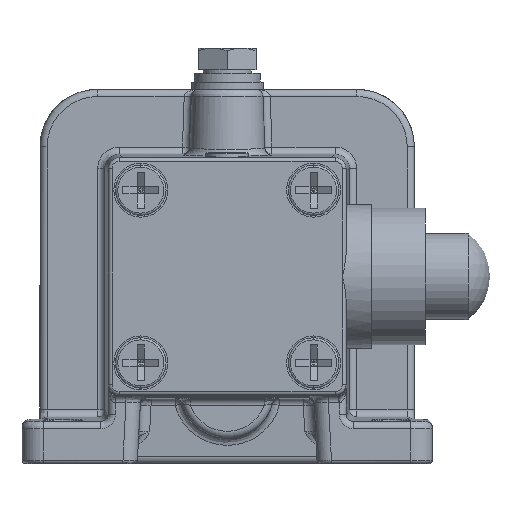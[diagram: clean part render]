
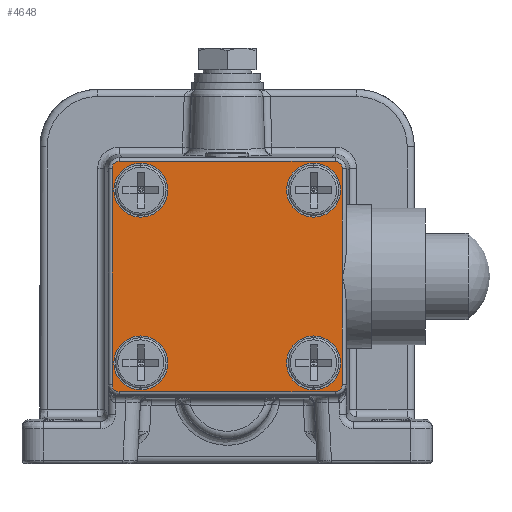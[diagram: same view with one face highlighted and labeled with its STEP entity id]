
A CAD part, left-side view. The second image highlights one B-rep face of the part: STEP entity #4648.
In plain terms, the highlighted planar face has unit normal (-1, 0, 0).
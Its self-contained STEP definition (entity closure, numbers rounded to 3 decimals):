
#3393=CARTESIAN_POINT('',(-76.253,-16.,0.));
#3394=VERTEX_POINT('',#3393);
#3999=CARTESIAN_POINT('',(-76.253,16.,15.));
#4000=VERTEX_POINT('',#3999);
#4009=CARTESIAN_POINT('',(-76.253,16.,-15.));
#4010=VERTEX_POINT('',#4009);
#4018=CARTESIAN_POINT('',(-76.253,16.,15.));
#4019=DIRECTION('',(0.0,0.0,-1.0));
#4020=VECTOR('',#4019,30.0);
#4021=LINE('',#4018,#4020);
#4022=EDGE_CURVE('',#4000,#4010,#4021,.T.);
#4032=CARTESIAN_POINT('',(-76.253,15.,16.));
#4033=VERTEX_POINT('',#4032);
#4043=CARTESIAN_POINT('',(-76.253,15.,15.));
#4044=DIRECTION('',(-1.0,0.0,0.0));
#4045=DIRECTION('',(0.0,0.0,1.0));
#4046=AXIS2_PLACEMENT_3D('',#4043,#4044,#4045);
#4047=CIRCLE('',#4046,1.);
#4048=EDGE_CURVE('',#4033,#4000,#4047,.T.);
#4058=CARTESIAN_POINT('',(-76.253,-15.,16.));
#4059=VERTEX_POINT('',#4058);
#4069=CARTESIAN_POINT('',(-76.253,-15.,16.));
#4070=DIRECTION('',(0.0,1.0,0.0));
#4071=VECTOR('',#4070,30.0);
#4072=LINE('',#4069,#4071);
#4073=EDGE_CURVE('',#4059,#4033,#4072,.T.);
#4083=CARTESIAN_POINT('',(-76.253,-16.,15.));
#4084=VERTEX_POINT('',#4083);
#4102=CARTESIAN_POINT('',(-76.253,-15.,15.));
#4103=DIRECTION('',(-1.0,0.0,0.0));
#4104=DIRECTION('',(0.0,-1.0,0.0));
#4105=AXIS2_PLACEMENT_3D('',#4102,#4103,#4104);
#4106=CIRCLE('',#4105,1.);
#4107=EDGE_CURVE('',#4084,#4059,#4106,.T.);
#4164=CARTESIAN_POINT('',(-76.253,-16.,-15.));
#4165=VERTEX_POINT('',#4164);
#4175=CARTESIAN_POINT('',(-76.253,-16.,-15.));
#4176=DIRECTION('',(0.0,0.0,1.0));
#4177=VECTOR('',#4176,15.0);
#4178=LINE('',#4175,#4177);
#4179=EDGE_CURVE('',#4165,#3394,#4178,.T.);
#4190=CARTESIAN_POINT('',(-76.253,-16.,0.));
#4191=DIRECTION('',(0.0,0.0,1.0));
#4192=VECTOR('',#4191,15.0);
#4193=LINE('',#4190,#4192);
#4194=EDGE_CURVE('',#3394,#4084,#4193,.T.);
#4206=CARTESIAN_POINT('',(-76.253,-15.,-16.));
#4207=VERTEX_POINT('',#4206);
#4217=CARTESIAN_POINT('',(-76.253,-15.,-15.));
#4218=DIRECTION('',(-1.0,0.0,0.0));
#4219=DIRECTION('',(0.0,0.0,-1.0));
#4220=AXIS2_PLACEMENT_3D('',#4217,#4218,#4219);
#4221=CIRCLE('',#4220,1.);
#4222=EDGE_CURVE('',#4207,#4165,#4221,.T.);
#4232=CARTESIAN_POINT('',(-76.253,15.,-16.));
#4233=VERTEX_POINT('',#4232);
#4243=CARTESIAN_POINT('',(-76.253,15.,-16.));
#4244=DIRECTION('',(0.0,-1.0,0.0));
#4245=VECTOR('',#4244,30.0);
#4246=LINE('',#4243,#4245);
#4247=EDGE_CURVE('',#4233,#4207,#4246,.T.);
#4266=CARTESIAN_POINT('',(-76.253,15.,-15.));
#4267=DIRECTION('',(-1.0,0.0,0.0));
#4268=DIRECTION('',(0.0,1.0,0.0));
#4269=AXIS2_PLACEMENT_3D('',#4266,#4267,#4268);
#4270=CIRCLE('',#4269,1.);
#4271=EDGE_CURVE('',#4010,#4233,#4270,.T.);
#4301=CARTESIAN_POINT('',(-76.253,-12.,-15.75));
#4302=VERTEX_POINT('',#4301);
#4320=CARTESIAN_POINT('',(-76.253,-12.,-8.25));
#4321=VERTEX_POINT('',#4320);
#4328=CARTESIAN_POINT('',(-76.253,-12.,-12.));
#4329=DIRECTION('',(1.0,0.0,0.0));
#4330=DIRECTION('',(0.0,0.0,-1.0));
#4331=AXIS2_PLACEMENT_3D('',#4328,#4329,#4330);
#4332=CIRCLE('',#4331,3.75);
#4333=EDGE_CURVE('',#4302,#4321,#4332,.T.);
#4352=CARTESIAN_POINT('',(-76.253,-12.,-12.));
#4353=DIRECTION('',(1.0,0.0,0.0));
#4354=DIRECTION('',(0.0,0.0,1.0));
#4355=AXIS2_PLACEMENT_3D('',#4352,#4353,#4354);
#4356=CIRCLE('',#4355,3.75);
#4357=EDGE_CURVE('',#4321,#4302,#4356,.T.);
#4381=CARTESIAN_POINT('',(-76.253,-12.,8.25));
#4382=VERTEX_POINT('',#4381);
#4400=CARTESIAN_POINT('',(-76.253,-12.,15.75));
#4401=VERTEX_POINT('',#4400);
#4408=CARTESIAN_POINT('',(-76.253,-12.,12.));
#4409=DIRECTION('',(1.0,0.0,0.0));
#4410=DIRECTION('',(0.0,0.0,-1.0));
#4411=AXIS2_PLACEMENT_3D('',#4408,#4409,#4410);
#4412=CIRCLE('',#4411,3.75);
#4413=EDGE_CURVE('',#4382,#4401,#4412,.T.);
#4432=CARTESIAN_POINT('',(-76.253,-12.,12.));
#4433=DIRECTION('',(1.0,0.0,0.0));
#4434=DIRECTION('',(0.0,0.0,1.0));
#4435=AXIS2_PLACEMENT_3D('',#4432,#4433,#4434);
#4436=CIRCLE('',#4435,3.75);
#4437=EDGE_CURVE('',#4401,#4382,#4436,.T.);
#4463=CARTESIAN_POINT('',(-76.253,15.75,-12.));
#4464=VERTEX_POINT('',#4463);
#4480=CARTESIAN_POINT('',(-76.253,8.25,-12.));
#4481=VERTEX_POINT('',#4480);
#4488=CARTESIAN_POINT('',(-76.253,12.,-12.));
#4489=DIRECTION('',(-1.0,0.0,0.0));
#4490=DIRECTION('',(0.0,-1.0,0.0));
#4491=AXIS2_PLACEMENT_3D('',#4488,#4489,#4490);
#4492=CIRCLE('',#4491,3.75);
#4493=EDGE_CURVE('',#4481,#4464,#4492,.T.);
#4512=CARTESIAN_POINT('',(-76.253,12.,-12.));
#4513=DIRECTION('',(-1.0,0.0,0.0));
#4514=DIRECTION('',(0.0,1.0,0.0));
#4515=AXIS2_PLACEMENT_3D('',#4512,#4513,#4514);
#4516=CIRCLE('',#4515,3.75);
#4517=EDGE_CURVE('',#4464,#4481,#4516,.T.);
#4571=CARTESIAN_POINT('',(-76.253,8.25,12.));
#4572=VERTEX_POINT('',#4571);
#4580=CARTESIAN_POINT('',(-76.253,15.75,12.));
#4581=VERTEX_POINT('',#4580);
#4588=CARTESIAN_POINT('',(-76.253,12.,12.));
#4589=DIRECTION('',(-1.0,0.0,0.0));
#4590=DIRECTION('',(0.0,1.0,0.0));
#4591=AXIS2_PLACEMENT_3D('',#4588,#4589,#4590);
#4592=CIRCLE('',#4591,3.75);
#4593=EDGE_CURVE('',#4581,#4572,#4592,.T.);
#4606=CARTESIAN_POINT('',(-76.253,12.,12.));
#4607=DIRECTION('',(-1.0,0.0,0.0));
#4608=DIRECTION('',(0.0,-1.0,0.0));
#4609=AXIS2_PLACEMENT_3D('',#4606,#4607,#4608);
#4610=CIRCLE('',#4609,3.75);
#4611=EDGE_CURVE('',#4572,#4581,#4610,.T.);
#4616=CARTESIAN_POINT('',(-76.253,0.,0.));
#4617=DIRECTION('',(1.0,0.0,0.0));
#4618=DIRECTION('',(0.0,0.0,1.0));
#4619=AXIS2_PLACEMENT_3D('',#4616,#4617,#4618);
#4620=PLANE('',#4619);
#4621=ORIENTED_EDGE('',*,*,#4107,.T.);
#4622=ORIENTED_EDGE('',*,*,#4073,.T.);
#4623=ORIENTED_EDGE('',*,*,#4048,.T.);
#4624=ORIENTED_EDGE('',*,*,#4022,.T.);
#4625=ORIENTED_EDGE('',*,*,#4271,.T.);
#4626=ORIENTED_EDGE('',*,*,#4247,.T.);
#4627=ORIENTED_EDGE('',*,*,#4222,.T.);
#4628=ORIENTED_EDGE('',*,*,#4179,.T.);
#4629=ORIENTED_EDGE('',*,*,#4194,.T.);
#4630=EDGE_LOOP('',(#4621,#4622,#4623,#4624,#4625,#4626,#4627,#4628,#4629));
#4631=FACE_OUTER_BOUND('',#4630,.T.);
#4632=ORIENTED_EDGE('',*,*,#4493,.F.);
#4633=ORIENTED_EDGE('',*,*,#4517,.F.);
#4634=EDGE_LOOP('',(#4632,#4633));
#4635=FACE_BOUND('',#4634,.T.);
#4636=ORIENTED_EDGE('',*,*,#4437,.T.);
#4637=ORIENTED_EDGE('',*,*,#4413,.T.);
#4638=EDGE_LOOP('',(#4636,#4637));
#4639=FACE_BOUND('',#4638,.T.);
#4640=ORIENTED_EDGE('',*,*,#4357,.T.);
#4641=ORIENTED_EDGE('',*,*,#4333,.T.);
#4642=EDGE_LOOP('',(#4640,#4641));
#4643=FACE_BOUND('',#4642,.T.);
#4644=ORIENTED_EDGE('',*,*,#4593,.F.);
#4645=ORIENTED_EDGE('',*,*,#4611,.F.);
#4646=EDGE_LOOP('',(#4644,#4645));
#4647=FACE_BOUND('',#4646,.T.);
#4648=ADVANCED_FACE('',(#4631,#4635,#4639,#4643,#4647),#4620,.F.);
